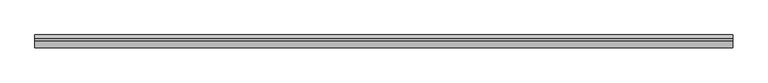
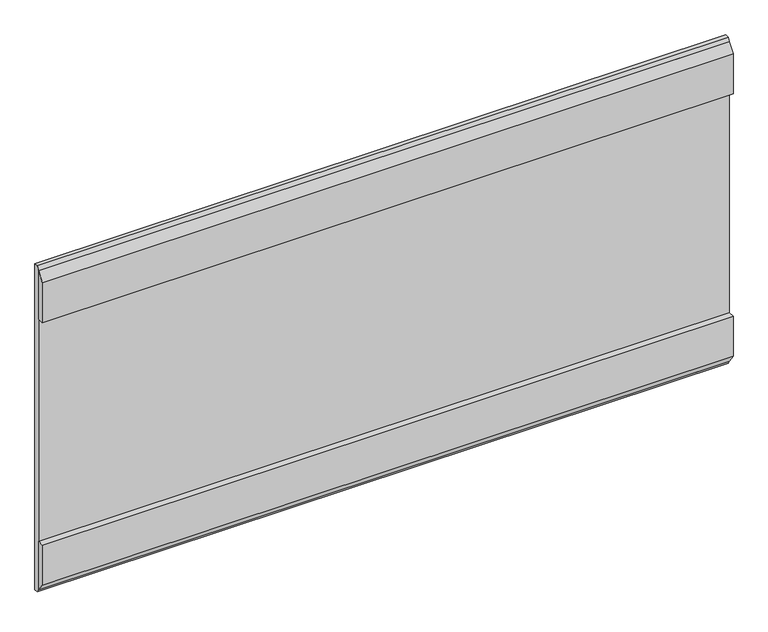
"""IFC4 building model written with IfcOpenShell, lengths in millimetres: proxy geometry, MK-TA24-STON-9T3-WD."""

import ifcopenshell
import ifcopenshell.guid

model = None  # the IFC model being written
_history = None  # IfcOwnerHistory: only IFC2X3 demands one
_inside = {}  # id of a spatial element -> (the spatial element, [elements in it])
_under = {}  # id of a project, library or spatial element -> (it, [spatial elements below it])
_declared = {}  # id of a project -> (the project, [libraries it declares])
_typed = {}  # id of a type object -> (the type object, [elements of that type])
_made_of = {}  # id of a material, layer set ... -> (it, [elements and type objects made of it])


def new_model(schema):
    """Start an empty IFC model of exactly this schema.

    Asked for "IFC4X3", IfcOpenShell would pick the latest addendum, in which some entities
    have other attributes; the version numbers below select the first issue.
    IFC2X3 requires an IfcOwnerHistory on every rooted entity: one is made here for all.
    """
    global model, _history
    if schema == "IFC4X3":
        model = ifcopenshell.file(schema_version=(4, 3, 0, 0))
    else:
        model = ifcopenshell.file(schema=schema)
    _inside.clear()
    _under.clear()
    _declared.clear()
    _typed.clear()
    _made_of.clear()
    _history = None
    if model.schema == "IFC2X3":
        org = make("IfcOrganization", Name="unknown")
        user = make(
            "IfcPersonAndOrganization",
            ThePerson=make("IfcPerson", FamilyName="unknown"),
            TheOrganization=org,
        )
        app = make(
            "IfcApplication",
            ApplicationDeveloper=org,
            Version="unknown",
            ApplicationFullName="unknown",
            ApplicationIdentifier="unknown",
        )
        _history = make(
            "IfcOwnerHistory",
            OwningUser=user,
            OwningApplication=app,
            ChangeAction="ADDED",
            CreationDate=0,
        )
    return model


def make(cls, **values):
    """One entity of the class cls with the attributes given. An attribute that is None is left unset."""
    return model.create_entity(
        cls, **{name: value for name, value in values.items() if value is not None}
    )


def rooted(cls, **values):
    """An entity with a GlobalId (a new one), such as an element, a storey or a relation."""
    return make(cls, GlobalId=ifcopenshell.guid.new(), OwnerHistory=_history, **values)


def si_unit(unit_type, name, prefix=None):
    """IfcSIUnit, for example si_unit("LENGTHUNIT", "METRE", prefix="MILLI")."""
    return make("IfcSIUnit", UnitType=unit_type, Prefix=prefix, Name=name)


def assignment(units):
    """IfcUnitAssignment: the units of a project."""
    return None if units is None else make("IfcUnitAssignment", Units=units)


def point(xyz):
    """IfcCartesianPoint."""
    return None if xyz is None else make("IfcCartesianPoint", Coordinates=xyz)


def direction(xyz):
    """IfcDirection."""
    return None if xyz is None else make("IfcDirection", DirectionRatios=xyz)


def frame(location, z_axis=None, x_axis=None):
    """IfcAxis2Placement3D, a coordinate frame: its origin and axes. An axis left out is left unset."""
    return make(
        "IfcAxis2Placement3D",
        Location=point(location),
        Axis=direction(z_axis),
        RefDirection=direction(x_axis),
    )


def origin():
    """The frame at (0, 0, 0) with its axes left unset."""
    return frame((0.0, 0.0, 0.0))


def place(relative_to, where):
    """IfcLocalPlacement: puts the frame where relative to a parent placement (None: the world)."""
    return make(
        "IfcLocalPlacement", PlacementRelTo=relative_to, RelativePlacement=where
    )


def context(
    kind, dimensions, precision=None, world=None, true_north=None, identifier=None
):
    """IfcGeometricRepresentationContext, for example the 3D "Model" context."""
    return make(
        "IfcGeometricRepresentationContext",
        ContextIdentifier=identifier,
        ContextType=kind,
        CoordinateSpaceDimension=dimensions,
        Precision=precision,
        WorldCoordinateSystem=world,
        TrueNorth=true_north,
    )


def project(units=None, contexts=None):
    """IfcProject with its units and contexts."""
    return rooted(
        "IfcProject",
        Name="project",
        RepresentationContexts=contexts,
        UnitsInContext=assignment(units),
    )


def spatial(cls, under=None, at=None, **own):
    """A site, building, storey or space (cls), placed at a placement, below another one or the project."""
    s = rooted(cls, ObjectPlacement=at, **own)
    if under is not None:
        _under.setdefault(under.id(), (under, []))[1].append(s)
    return s


def polyline(points):
    """IfcPolyline through the points."""
    return make("IfcPolyline", Points=[point(p) for p in points])


def outline(outer, holes=None, kind="AREA"):
    """IfcArbitraryClosedProfileDef: a profile drawn as a closed curve; with holes, ...WithVoids."""
    if holes is None:
        return make("IfcArbitraryClosedProfileDef", ProfileType=kind, OuterCurve=outer)
    return make(
        "IfcArbitraryProfileDefWithVoids",
        ProfileType=kind,
        OuterCurve=outer,
        InnerCurves=holes,
    )


def extrude(swept, where, along, depth):
    """IfcExtrudedAreaSolid: the profile swept, set in the frame where, extruded along a direction by depth."""
    return make(
        "IfcExtrudedAreaSolid",
        SweptArea=swept,
        Position=where,
        ExtrudedDirection=direction(along),
        Depth=depth,
    )


def shape(context_of_items, identifier, shape_type, items):
    """IfcShapeRepresentation: the items that make up one representation, for example the "Body"."""
    return make(
        "IfcShapeRepresentation",
        ContextOfItems=context_of_items,
        RepresentationIdentifier=identifier,
        RepresentationType=shape_type,
        Items=items,
    )


def source(mapping_origin, context_of_items, identifier, shape_type, items):
    """IfcRepresentationMap: a shape defined once, which mapped items show again and again."""
    return make(
        "IfcRepresentationMap",
        MappingOrigin=mapping_origin,
        MappedRepresentation=shape(context_of_items, identifier, shape_type, items),
    )


def transform(
    local_origin,
    x_axis=None,
    y_axis=None,
    z_axis=None,
    scale=None,
    scale2=None,
    scale3=None,
    uniform=True,
):
    """IfcCartesianTransformationOperator3D, or its non-uniform kind. x_axis, y_axis, z_axis: its Axis1, 2, 3."""
    if uniform:
        return make(
            "IfcCartesianTransformationOperator3D",
            Axis1=direction(x_axis),
            Axis2=direction(y_axis),
            LocalOrigin=point(local_origin),
            Scale=scale,
            Axis3=direction(z_axis),
        )
    return make(
        "IfcCartesianTransformationOperator3DnonUniform",
        Axis1=direction(x_axis),
        Axis2=direction(y_axis),
        LocalOrigin=point(local_origin),
        Scale=scale,
        Axis3=direction(z_axis),
        Scale2=scale2,
        Scale3=scale3,
    )


def mapped(mapping_source, mapping_target):
    """IfcMappedItem: shows the shape of a source again, moved by a transform."""
    return make(
        "IfcMappedItem", MappingSource=mapping_source, MappingTarget=mapping_target
    )


def made_of(thing, what):
    """Note that an element or type object is made of a material, layer set ...; save() writes the relation."""
    if what is not None:
        _made_of.setdefault(what.id(), (what, []))[1].append(thing)
    return thing


def element(
    cls,
    number,
    at=None,
    inside=None,
    cuts=None,
    type_object=None,
    material=None,
    context=None,
    identifier="Body",
    shape_type=None,
    held_by="IfcProductDefinitionShape",
    body=None,
    shapes=None,
    **own,
):
    """One element of the class cls, such as IfcWall. Its Tag is "e" and its number.

    at: its placement. inside: the storey or other place that contains it. cuts: it is an
    opening in that element (IfcRelVoidsElement). A single representation is given by context,
    identifier, shape_type and body (its items); several are given by shapes. held_by: the class
    of the entity that holds the representations. save() writes the other relations.
    """
    e = rooted(cls, Tag="e%d" % number, ObjectPlacement=at, **own)
    if body is not None:
        shapes = [shape(context, identifier, shape_type, body)]
    if shapes is not None:
        e.Representation = make(held_by, Representations=shapes)
    if inside is not None:
        _inside.setdefault(inside.id(), (inside, []))[1].append(e)
    if cuts is not None:
        rooted(
            "IfcRelVoidsElement", RelatingBuildingElement=cuts, RelatedOpeningElement=e
        )
    if type_object is not None:
        _typed.setdefault(type_object.id(), (type_object, []))[1].append(e)
    return made_of(e, material)


def aggregate(whole, parts):
    """IfcRelAggregates: a whole, such as a stair, and the parts it consists of."""
    return rooted("IfcRelAggregates", RelatingObject=whole, RelatedObjects=parts)


def save(model, path):
    """Write the relations noted so far, then the file.

    IfcRelAggregates (storeys below a building ...), IfcRelContainedInSpatialStructure (elements
    in a storey), IfcRelDefinesByType, IfcRelAssociatesMaterial and IfcRelDeclares: one each for
    every whole, place, type object, material and project.
    """
    for whole, parts in _under.values():
        aggregate(whole, parts)
    for where, things in _inside.values():
        rooted(
            "IfcRelContainedInSpatialStructure",
            RelatedElements=things,
            RelatingStructure=where,
        )
    for kind, things in _typed.values():
        rooted("IfcRelDefinesByType", RelatedObjects=things, RelatingType=kind)
    for what, things in _made_of.values():
        rooted("IfcRelAssociatesMaterial", RelatedObjects=things, RelatingMaterial=what)
    for by, libraries in _declared.values():
        rooted("IfcRelDeclares", RelatingContext=by, RelatedDefinitions=libraries)
    model.write(path)


def generic_models_4a0a30e6(model_context):
    return source(origin(), model_context, "Body", "SweptSolid", [
        extrude(outline(polyline([(710.0, 510.3589838), (730.0, 538.6739954), (730.0, 375.0), (710.0, 375.0), (710.0, 510.3589838)])), frame((-1102.5, 0.0, 0.0), z_axis=(1.0, 0.0, 0.0), x_axis=(0.0, 1.0, 0.0)), (0.0, 0.0, 1.0), 2205.0),
        extrude(outline(polyline([(730.0, -375.0), (730.0, -538.6739954), (710.0, -510.3589838), (710.0, -375.0), (730.0, -375.0)])), frame((-1102.5, 0.0, 0.0), z_axis=(1.0, 0.0, 0.0), x_axis=(0.0, 1.0, 0.0)), (0.0, 0.0, 1.0), 2205.0),
        extrude(outline(polyline([(730.0, 538.6739954), (738.0, 550.0), (750.0, 550.0), (750.0, -550.0), (738.0, -550.0), (730.0, -538.6739954), (730.0, 538.6739954)])), frame((-1102.5, 0.0, 0.0), z_axis=(1.0, 0.0, 0.0), x_axis=(0.0, 1.0, 0.0)), (0.0, 0.0, 1.0), 2205.0),
    ])


if __name__ == "__main__":
    model = new_model("IFC4")
    model_context = context("Model", 3, world=origin())
    ifc_project = project(units=[si_unit("LENGTHUNIT", "METRE", prefix="MILLI")], contexts=[model_context])
    site = spatial("IfcSite", under=ifc_project)
    building = spatial("IfcBuilding", under=site)
    placement = place(None, origin())
    generic_models_shape = generic_models_4a0a30e6(model_context)
    element("IfcBuildingElementProxy", 1, Name="MK-TA24-STON-9T3-WD", ObjectType="MK-TA24-STON-9T3-WD", at=placement, inside=building, context=model_context, shape_type="MappedRepresentation", body=[
        mapped(generic_models_shape, transform((0.0, 0.0, 0.0), x_axis=(1.0, 0.0, 0.0), y_axis=(0.0, 1.0, 0.0), z_axis=(0.0, 0.0, 1.0))),
    ])
    save(model, "model.ifc")
